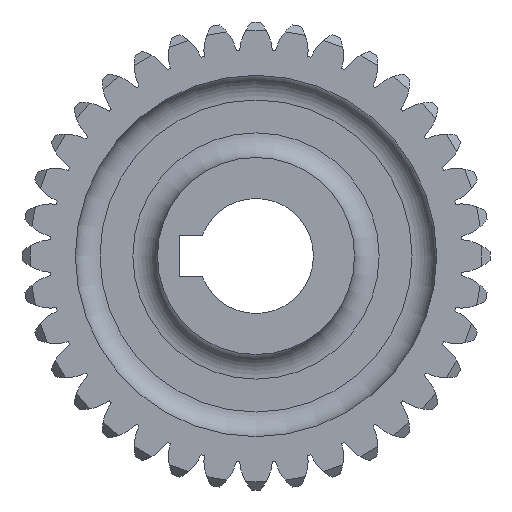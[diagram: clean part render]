
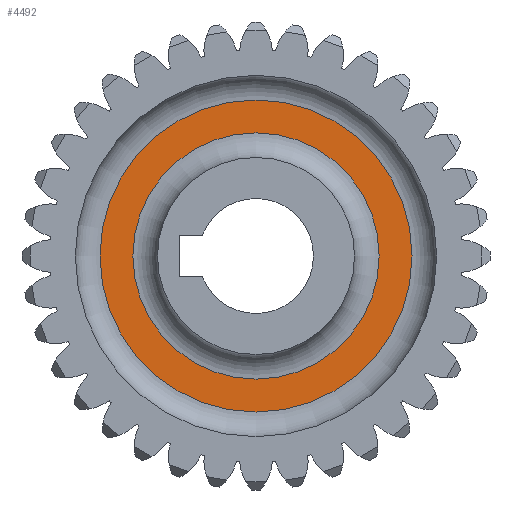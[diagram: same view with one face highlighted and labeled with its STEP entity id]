
A CAD part, left-side view. The second image highlights one B-rep face of the part: STEP entity #4492.
In plain terms, the highlighted planar face has unit normal (-1, 0, 0).
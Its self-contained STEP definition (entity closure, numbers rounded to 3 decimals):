
#280=FACE_BOUND('',#1483,.T.);
#1008=PLANE('',#5129);
#1242=FACE_OUTER_BOUND('',#1482,.T.);
#1482=EDGE_LOOP('',(#4102));
#1483=EDGE_LOOP('',(#4103));
#1721=CIRCLE('',#5128,15.);
#1722=CIRCLE('',#5130,19.);
#2184=VERTEX_POINT('',#8057);
#2185=VERTEX_POINT('',#8061);
#2872=EDGE_CURVE('',#2184,#2184,#1721,.T.);
#2873=EDGE_CURVE('',#2185,#2185,#1722,.T.);
#4102=ORIENTED_EDGE('',*,*,#2873,.F.);
#4103=ORIENTED_EDGE('',*,*,#2872,.T.);
#4492=ADVANCED_FACE('',(#1242,#280),#1008,.T.);
#5128=AXIS2_PLACEMENT_3D('',#8059,#6662,#6663);
#5129=AXIS2_PLACEMENT_3D('',#8060,#6664,#6665);
#5130=AXIS2_PLACEMENT_3D('',#8062,#6666,#6667);
#6662=DIRECTION('center_axis',(1.,0.,0.));
#6663=DIRECTION('ref_axis',(0.,0.,-1.));
#6664=DIRECTION('center_axis',(-1.,0.,0.));
#6665=DIRECTION('ref_axis',(0.,0.,1.));
#6666=DIRECTION('center_axis',(1.,0.,0.));
#6667=DIRECTION('ref_axis',(0.,0.,-1.));
#8057=CARTESIAN_POINT('',(6.,0.,15.));
#8059=CARTESIAN_POINT('Origin',(6.,0.,0.));
#8060=CARTESIAN_POINT('Origin',(6.,19.,0.));
#8061=CARTESIAN_POINT('',(6.,0.,19.));
#8062=CARTESIAN_POINT('Origin',(6.,0.,0.));
